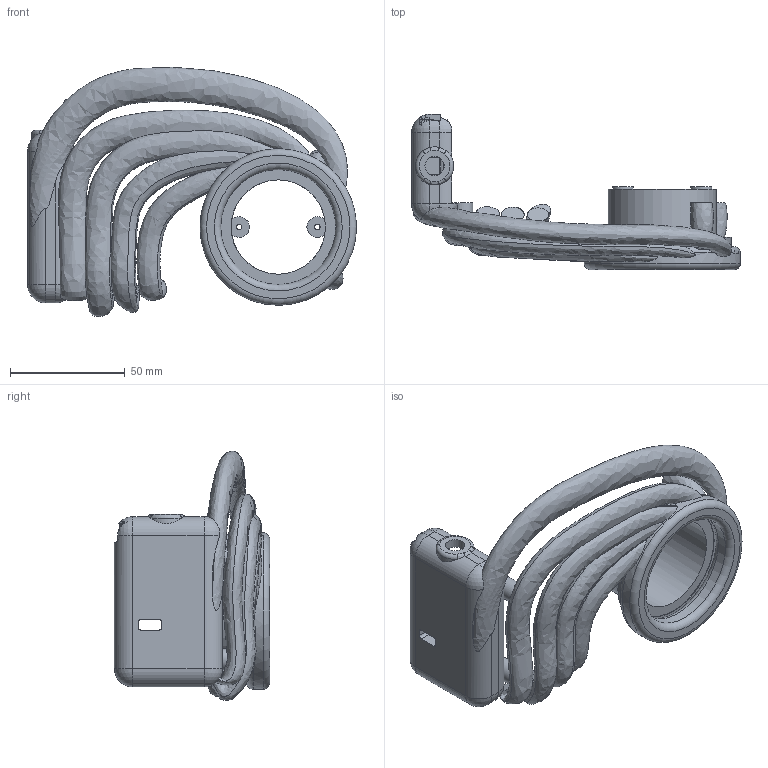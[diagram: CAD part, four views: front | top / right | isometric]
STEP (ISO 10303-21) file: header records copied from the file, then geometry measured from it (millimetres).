
FILE_DESCRIPTION(('Open CASCADE Model'),'2;1');
FILE_NAME('Open CASCADE Shape Model','2026-10-20T15:14:13',('Author'),( 'Open CASCADE'),'Open CASCADE STEP processor 7.8','Open CASCADE 7.8' ,'Unknown');
FILE_SCHEMA(('AUTOMOTIVE_DESIGN { 1 0 10303 214 1 1 1 1 }'));
Length unit declared in the file: millimetre
Products named in the file (1): Open CASCADE STEP translator 7.8 3
Bounding box: 143 x 67.5 x 108.43 mm (x, y, z)
Volume: 122084.7 mm3; surface area: 47118 mm2
Topology: 1 solids, 1 shells, 168 faces, 461 edges, 294 vertices
Faces by surface type: plane 78, cylinder 53, bspline 19, sphere 12, torus 6
Full cylindrical faces by diameter (mm): 1.8 x5, 2.4 x2, 8.4 x1, 9 x2, 9.2 x2, 41 x1, 47 x1, 50 x2, 68 x1
Entity records: 27608 total; most frequent: CARTESIAN_POINT 19340, DIRECTION 1296, ORIENTED_EDGE 910, PCURVE 910, DEFINITIONAL_REPRESENTATION 910, LINE 613, VECTOR 613, B_SPLINE_CURVE_WITH_KNOTS 469
